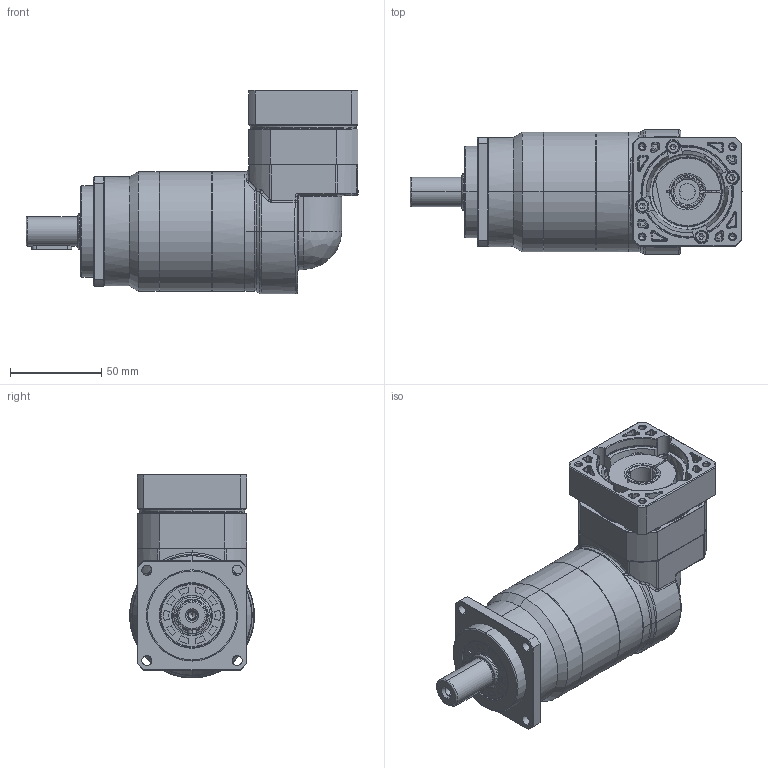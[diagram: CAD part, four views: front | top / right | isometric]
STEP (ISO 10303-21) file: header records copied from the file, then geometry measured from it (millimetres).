
FILE_DESCRIPTION (( 'STEP AP214' ), '1' );
FILE_NAME ('EVB060-L2-S2-P1 14-50-70-M4-33.STEP', '2025-01-09T08:04:55', ( '微软用户' ), ( '微软中国' ), 'SwSTEP 2.0', 'SolidWorks 2021', '' );
FILE_SCHEMA (( 'AUTOMOTIVE_DESIGN' ));
Length unit declared in the file: millimetre
Products named in the file (4): EVT060D-L2-8-38.1-66.7-M4-33; 3.EVT064F眻褒眊极_step_stp_stp.stp; EVB060D-L2-S2-14-50-70-M4-33; EVB060-L2-S2-P1 14-50-70-M4-33
Assembly tree (7 placements, depth 2):
  EVB060-L2-S2-P1 14-50-70-M4-33
    EVB060D-L2-S2-14-50-70-M4-33
    3.EVT064F眻褒眊极_step_stp_stp.stp
    EVT060D-L2-8-38.1-66.7-M4-33  x5
Bounding box: 182 x 68.5 x 111.75 mm (x, y, z)
Volume: 502114.2 mm3; surface area: 124195.7 mm2
Topology: 18 solids, 28 shells, 1435 faces, 3545 edges, 2182 vertices
Faces by surface type: cylinder 437, plane 400, bspline 328, cone 256, torus 14
Entity records: 58332 total; most frequent: CARTESIAN_POINT 29905, ORIENTED_EDGE 6294, DIRECTION 5210, EDGE_CURVE 3151, AXIS2_PLACEMENT_3D 2069, VERTEX_POINT 1970, EDGE_LOOP 1456, ADVANCED_FACE 1307
